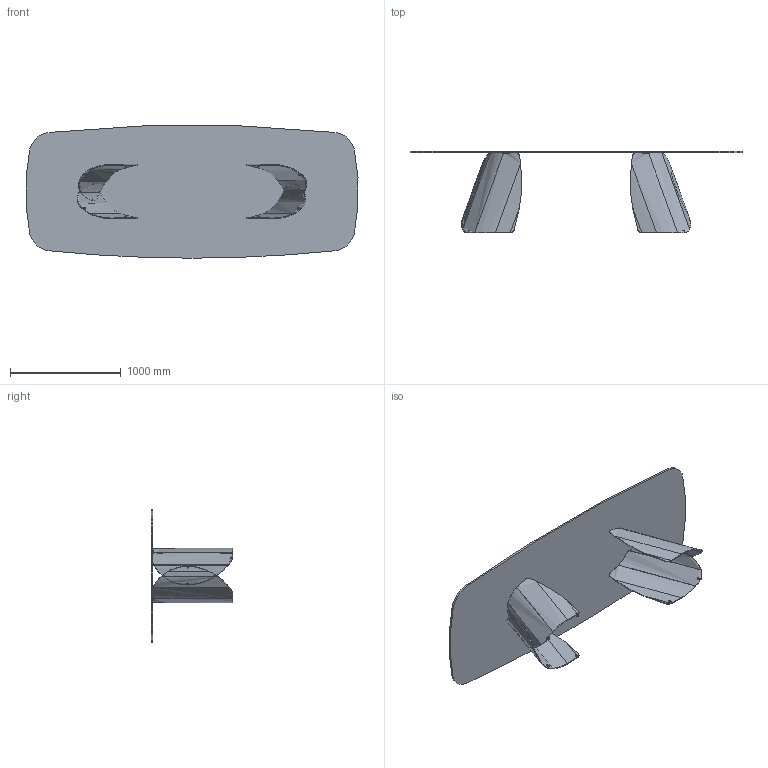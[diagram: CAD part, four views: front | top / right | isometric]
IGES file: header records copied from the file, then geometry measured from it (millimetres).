
Start section: SolidWorks IGES file using analytic representation for surfaces
Global section: file name: Y:\eforma\TECNICO\SOLIDWORKS\E-FORMA\1-TAVOLI\PERLA\02 parts\PA44G_Perla 300x120_Glass Shaped.IGS; native system: SolidWorks 2022; preprocessor: SolidWorks 2022; author: eforma.tech; date: 240801.145432; units: millimetre
Bounding box: 2991.72 x 736.5 x 1192.61 mm (x, y, z)
Volume: 60326128.8 mm3; surface area: 10225894.5 mm2
Topology: 33 solids, 33 shells, 477 faces, 1057 edges, 646 vertices
Faces by surface type: revolution 245, bspline 130, plane 102
